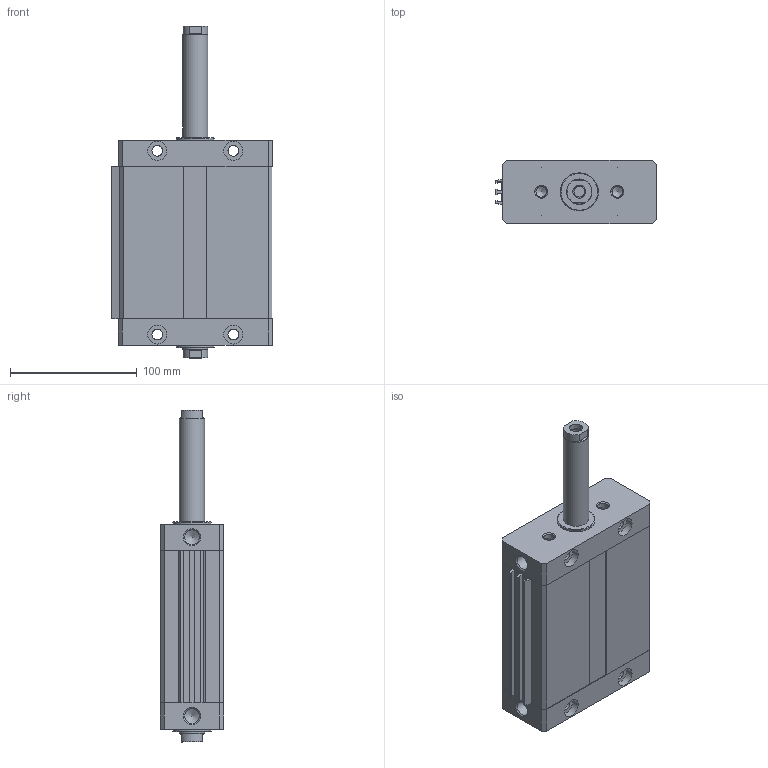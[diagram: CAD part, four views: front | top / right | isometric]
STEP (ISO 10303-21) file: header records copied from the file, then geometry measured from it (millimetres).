
FILE_DESCRIPTION((''),'2;1');
FILE_NAME('I:\Area Tecnica\Disegni\VARIE-3D\Componenti\1370 - CPO\1370_##_0000_03\1370_63_0080_03-01.iam.step','2010-12-16T11:01:04',(''),(''),'Autodesk Inventor 2011','Autodesk Inventor 2011','');
FILE_SCHEMA(('AUTOMOTIVE_DESIGN { 1 0 10303 214 1 1 1 1 }'));
Length unit declared in the file: millimetre
Products named in the file (5): 1370_63_0080_03-01; 1370_05_63_0000; 1370_06_63_0080; 1370_08_63_0000; 1370_3_63_0080
Assembly tree (4 placements, depth 2):
  1370_63_0080_03-01
    1370_05_63_0000
    1370_06_63_0080
    1370_08_63_0000
    1370_3_63_0080
Bounding box: 126.75 x 50 x 262 mm (x, y, z)
Volume: 737433.6 mm3; surface area: 162816.1 mm2
Topology: 4 solids, 4 shells, 164 faces, 398 edges, 252 vertices
Faces by surface type: plane 94, cylinder 50, cone 20
Full cylindrical faces by diameter (mm): 8.5 x20, 10.3 x2, 11.75 x2, 15 x8, 20 x4, 30 x2
Entity records: 4722 total; most frequent: DIRECTION 794, CARTESIAN_POINT 737, ORIENTED_EDGE 652, EDGE_CURVE 326, AXIS2_PLACEMENT_3D 295, EDGE_LOOP 254, VERTEX_POINT 238, VECTOR 204
